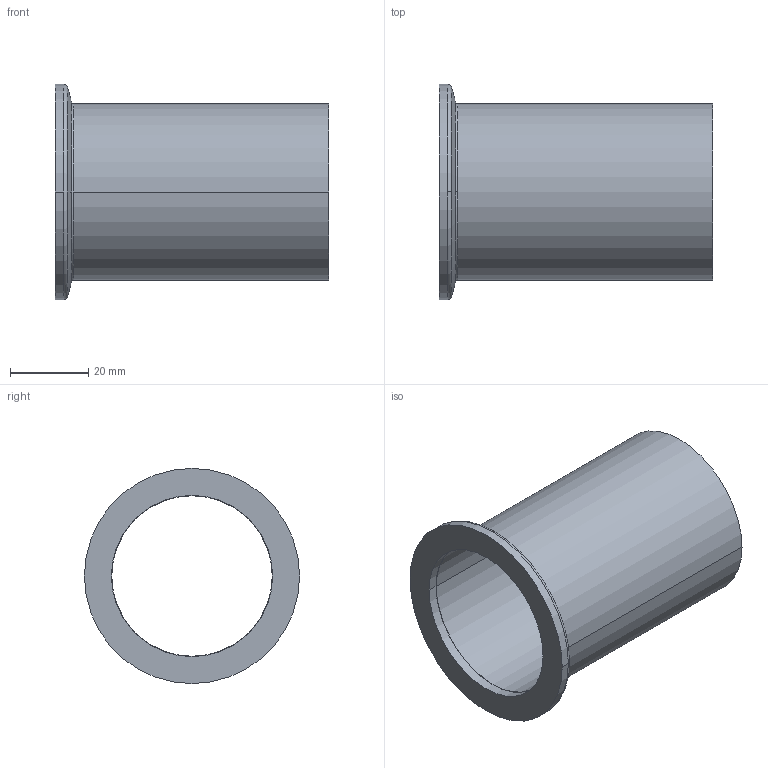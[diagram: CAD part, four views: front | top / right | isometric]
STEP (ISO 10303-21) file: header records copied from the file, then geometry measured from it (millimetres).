
FILE_DESCRIPTION((''),'2;1');
FILE_NAME('W:\211-219.stp','2003-10-09T10:11:56',('KAA'),(''),'Autodesk Inventor (R) 6.0','Autodesk Inventor (R) 6.0','');
FILE_SCHEMA(('CONFIG_CONTROL_DESIGN'));
Length unit declared in the file: millimetre
Products named in the file (1): 211-219
Bounding box: 70 x 55 x 55 mm (x, y, z)
Volume: 21731.3 mm3; surface area: 20899.3 mm2
Topology: 1 solids, 1 shells, 17 faces, 42 edges, 28 vertices
Faces by surface type: cylinder 8, plane 3, torus 2, cone 2, bspline 2
Entity records: 707 total; most frequent: CARTESIAN_POINT 176, DIRECTION 106, ORIENTED_EDGE 84, AXIS2_PLACEMENT_3D 48, EDGE_CURVE 42, CIRCLE 32, VERTEX_POINT 28, EDGE_LOOP 20
